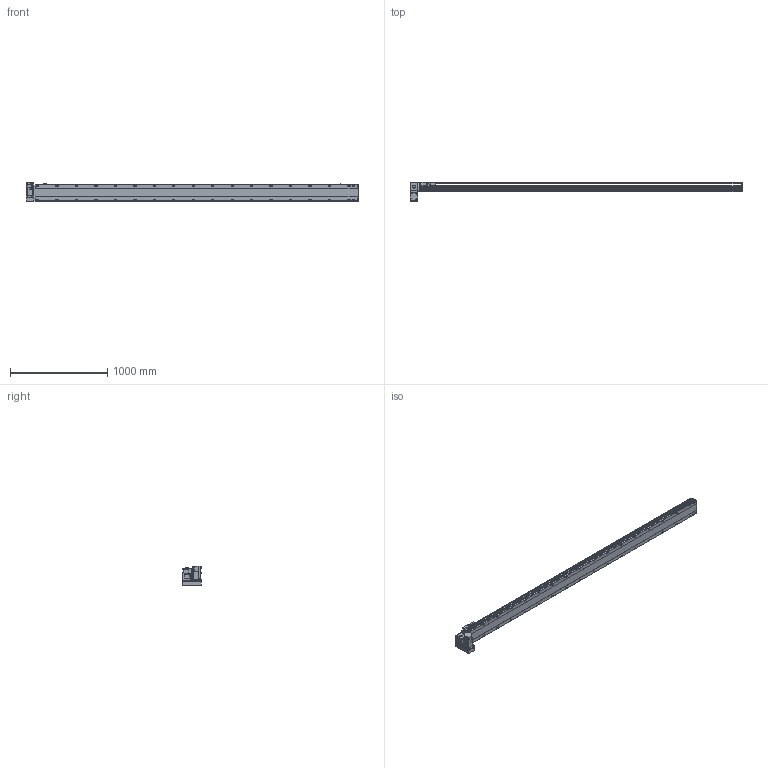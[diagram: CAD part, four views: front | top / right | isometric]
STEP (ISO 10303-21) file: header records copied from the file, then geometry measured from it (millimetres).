
FILE_DESCRIPTION(/* description */ ('STEP AP214'),/* implementation_level */ '2;1');
FILE_NAME(/* name */ 'PBS170-P40-S3050-LD-T75-C1-N(0)',/* time_stamp */ '2022-06-07T09:57:03+02:00',/* author */ ('License CC BY-ND 4.0'),/* organization */ ('CADENAS'),/* preprocessor_version */ 'ST-DEVELOPER v18.102',/* originating_system */ 'PARTsolutions',/* authorisation */ ' ');
FILE_SCHEMA (('AUTOMOTIVE_DESIGN {1 0 10303 214 3 1 1}'));
Length unit declared in the file: millimetre
Products named in the file (7): PBS170-P40-S3050-LD-T75-C1-N(0); PBS170_sensor; PBS170_plant; PBS170_sliser; T75-p1; PBS170T-LD_motors; PBS170-S3050()_body
Assembly tree (8 placements, depth 2):
  PBS170-P40-S3050-LD-T75-C1-N(0)
    PBS170_sensor  x3
    PBS170_plant
    PBS170_sliser
    T75-p1
    PBS170T-LD_motors
    PBS170-S3050()_body
Bounding box: 3413 x 201 x 197.3 mm (x, y, z)
Volume: 25594545.6 mm3; surface area: 3203559.3 mm2
Topology: 8 solids, 8 shells, 1242 faces, 3275 edges, 2134 vertices
Faces by surface type: plane 747, cylinder 419, cone 66, sphere 8, torus 2
Full cylindrical faces by diameter (mm): 3.242 x4, 4 x2, 4.4 x4, 4.5 x6, 4.917 x4, 6 x9, 6.647 x44, 7 x2, 7.5 x4, 8 x8, 8.5 x36, 10 x4, 10.5 x36, 11 x2, 30 x2, 40 x1, 70 x1
Entity records: 35698 total; most frequent: CARTESIAN_POINT 6833, DIRECTION 6000, ORIENTED_EDGE 5628, EDGE_CURVE 2814, AXIS2_PLACEMENT_3D 2137, VERTEX_POINT 1970, LINE 1726, VECTOR 1726
